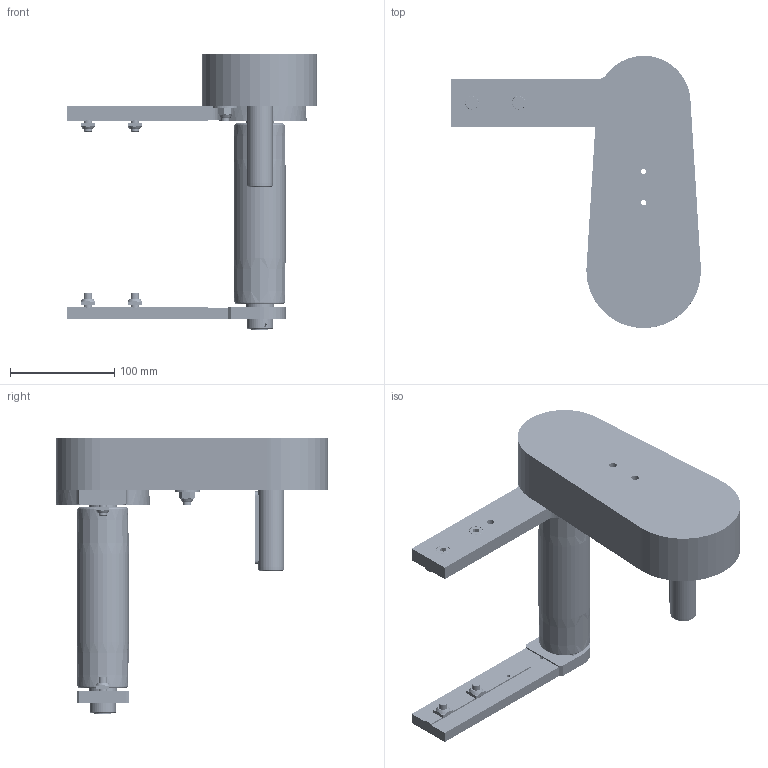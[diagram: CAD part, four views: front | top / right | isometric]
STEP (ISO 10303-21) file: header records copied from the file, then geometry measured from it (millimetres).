
FILE_DESCRIPTION (( 'STEP AP203' ), '1' );
FILE_NAME ('084.050.KTC.49.150.STEP', '2019-07-29T13:22:37', ( '' ), ( '' ), 'SwSTEP 2.0', 'SolidWorks 2018', '' );
FILE_SCHEMA (( 'CONFIG_CONTROL_DESIGN' ));
Length unit declared in the file: millimetre
Products named in the file (24): DADI ESAGONALI AUTOBLOCCANTI UNI 7473 INOX_M8 UNI 7473 INOX; 084.810.004; 084.807.002_084.807.002; 084.813.005; 084.813.001; 084.803.014; 084.301.000 VITI ALUSIC_084.301.003; 084.810.005; 084.811.004; CUSCINETTI A SFERE_608-2RS; 084.810.010; CHIAVETTE_A 8x7x70 UNI 6604-69; 084.809.003; 084.815.102_Default<A macchina>; RONDELLE FASCIA LARGA UNI 6593_8.4x24 UNI 6593; Circlip DIN 471 - 8 x 0.8_Circlip DIN 471 - 8 x 0.8; 084.302.000 DADI ALUSIC 13x13_084.302.004; 084.810.001; 084.803.012; 084.809.002; 084.807.001_084.807.001; 084.802.034_084.802.034; 084.802.017_084.802.017; 084.050.KTC.49.150
Assembly tree (32 placements, depth 3):
  084.050.KTC.49.150
    084.815.102_Default<A macchina>
    084.811.004
    084.813.001
    084.810.001  x2
    084.802.034_084.802.034
    084.802.017_084.802.017
    084.807.001_084.807.001
    084.807.002_084.807.002
    084.803.014  x2
    084.803.012
    084.809.002
    084.809.003
    084.810.005
      084.810.010
      084.810.004
      CUSCINETTI A SFERE_608-2RS  x2
      Circlip DIN 471 - 8 x 0.8_Circlip DIN 471 - 8 x 0.8
      RONDELLE FASCIA LARGA UNI 6593_8.4x24 UNI 6593
      DADI ESAGONALI AUTOBLOCCANTI UNI 7473 INOX_M8 UNI 7473 INOX
    084.301.000 VITI ALUSIC_084.301.003  x4
    084.302.000 DADI ALUSIC 13x13_084.302.004  x4
    CHIAVETTE_A 8x7x70 UNI 6604-69
    084.813.005
Bounding box: 240 x 261.5 x 266 mm (x, y, z)
Volume: 784358.6 mm3; surface area: 434919.8 mm2
Topology: 61 solids, 62 shells, 2854 faces, 6735 edges, 4305 vertices
Faces by surface type: cylinder 1399, plane 720, bspline 468, cone 172, torus 86, sphere 9
Entity records: 81297 total; most frequent: CARTESIAN_POINT 18493, DIRECTION 13655, ORIENTED_EDGE 11868, EDGE_CURVE 5934, AXIS2_PLACEMENT_3D 5764, VERTEX_POINT 3782, CIRCLE 3644, EDGE_LOOP 3104
